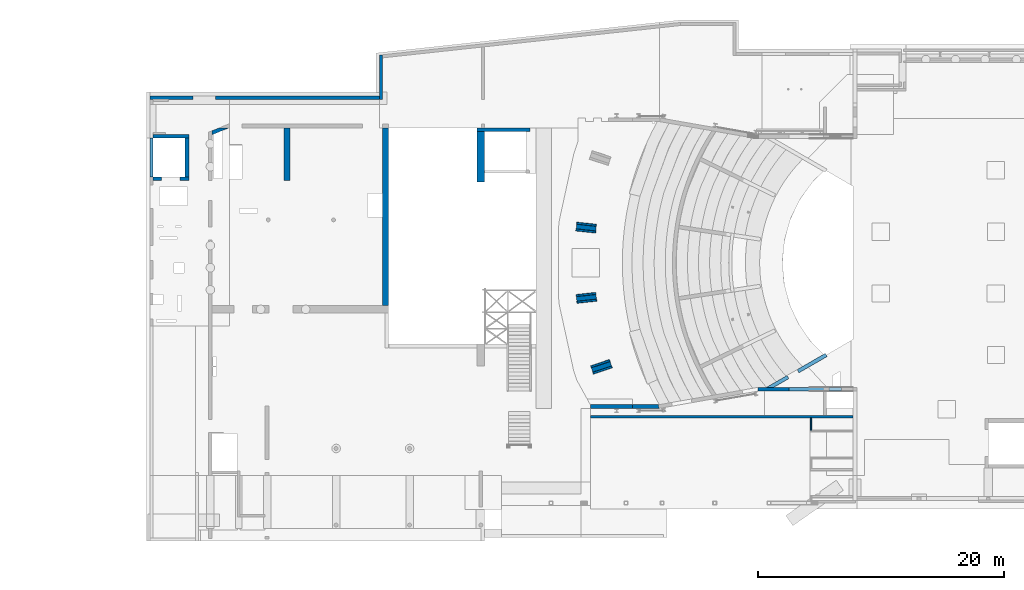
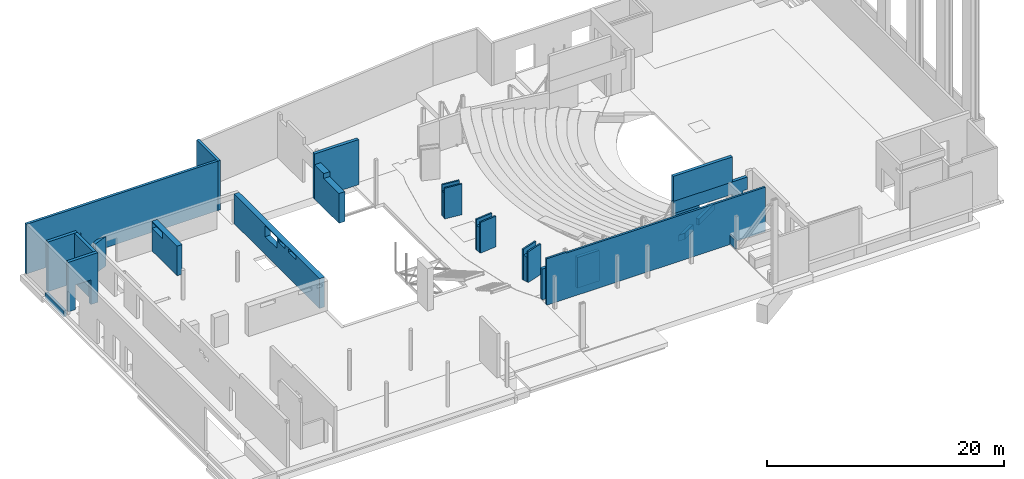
# One storey, part 25 of 34: 28 walls, 9 openings.
"""IFC2X3 building model written with IfcOpenShell, lengths in millimetres."""

from ifc_helpers import new_model, entity, si_unit, converted_unit, derived_unit, direction, frame, frame_2d, origin, origin_2d_with_axis, place, context, subcontext, project, spatial, polyline, circle_curve, parameter, trimmed, segment, composite_curve, rectangle, outline, extrude, clip, bounded_halfspace, material, layer, layer_set, layer_usage, type_object, element, save


model = new_model("IFC2X3")

# Units and contexts
model_context = context("Model", 3, precision=0.01, world=origin(), true_north=direction((6.12303176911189e-17, 1.0)))
body_context = subcontext(model_context, "Body", "Model", "MODEL_VIEW")
ifc_project = project(units=[si_unit("LENGTHUNIT", "METRE", prefix="MILLI"), si_unit("AREAUNIT", "SQUARE_METRE", prefix="MILLI"), si_unit("VOLUMEUNIT", "CUBIC_METRE"), converted_unit("PLANEANGLEUNIT", "DEGREE", entity("IfcRatioMeasure", 0.0174532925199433), si_unit("PLANEANGLEUNIT", "RADIAN"), dimensions=[0, 0, 0, 0, 0, 0, 0]), si_unit("MASSUNIT", "GRAM", prefix="KILO"), derived_unit("MASSDENSITYUNIT", [(si_unit("MASSUNIT", "GRAM", prefix="KILO"), 1), (si_unit("LENGTHUNIT", "METRE"), -3)]), derived_unit("MOMENTOFINERTIAUNIT", [(si_unit("LENGTHUNIT", "METRE"), 4)]), si_unit("TIMEUNIT", "SECOND"), si_unit("FREQUENCYUNIT", "HERTZ"), si_unit("THERMODYNAMICTEMPERATUREUNIT", "DEGREE_CELSIUS"), derived_unit("THERMALTRANSMITTANCEUNIT", [(si_unit("MASSUNIT", "GRAM", prefix="KILO"), 1), (si_unit("THERMODYNAMICTEMPERATUREUNIT", "KELVIN"), -1), (si_unit("TIMEUNIT", "SECOND"), -3)]), derived_unit("VOLUMETRICFLOWRATEUNIT", [(si_unit("LENGTHUNIT", "METRE"), 3), (si_unit("TIMEUNIT", "SECOND"), -1)]), si_unit("ELECTRICCURRENTUNIT", "AMPERE"), si_unit("ELECTRICVOLTAGEUNIT", "VOLT"), si_unit("POWERUNIT", "WATT"), si_unit("FORCEUNIT", "NEWTON", prefix="KILO"), si_unit("ILLUMINANCEUNIT", "LUX"), si_unit("LUMINOUSFLUXUNIT", "LUMEN"), si_unit("LUMINOUSINTENSITYUNIT", "CANDELA"), derived_unit("USERDEFINED", [(si_unit("MASSUNIT", "GRAM", prefix="KILO"), -1), (si_unit("LENGTHUNIT", "METRE"), -2), (si_unit("TIMEUNIT", "SECOND"), 3), (si_unit("LUMINOUSFLUXUNIT", "LUMEN"), 1)]), derived_unit("LINEARVELOCITYUNIT", [(si_unit("LENGTHUNIT", "METRE"), 1), (si_unit("TIMEUNIT", "SECOND"), -1)]), si_unit("PRESSUREUNIT", "PASCAL"), derived_unit("USERDEFINED", [(si_unit("LENGTHUNIT", "METRE"), -2), (si_unit("MASSUNIT", "GRAM", prefix="KILO"), 1), (si_unit("TIMEUNIT", "SECOND"), -2)]), derived_unit("LINEARFORCEUNIT", [(si_unit("MASSUNIT", "GRAM", prefix="KILO"), 1), (si_unit("LENGTHUNIT", "METRE"), 1), (si_unit("TIMEUNIT", "SECOND"), -2), (si_unit("LENGTHUNIT", "METRE"), -1)]), derived_unit("PLANARFORCEUNIT", [(si_unit("MASSUNIT", "GRAM", prefix="KILO"), 1), (si_unit("LENGTHUNIT", "METRE"), 1), (si_unit("TIMEUNIT", "SECOND"), -2), (si_unit("LENGTHUNIT", "METRE"), -2)])], contexts=[model_context])

# Site, building, storey
site_placement = place(None, origin())
site = spatial("IfcSite", under=ifc_project, at=site_placement, Name="Theater aan de Parade", CompositionType="ELEMENT")
building_placement = place(site_placement, origin())
building = spatial("IfcBuilding", under=site, at=building_placement, Name="Theater aan de Parade", CompositionType="ELEMENT")
storey_placement = place(building_placement, frame((0.0, 0.0, 3.49116848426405e-09)))
storey = spatial("IfcBuildingStorey", under=building, at=storey_placement, Name="00 begane grond", CompositionType="ELEMENT", Elevation=3.49116848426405e-09)

# Wall, openings
ifc_material_1 = material(Name="00_PBT_MAT_beton t.p.g.")
ifc_layer_1 = layer(ifc_material_1, 300.0)
ifc_layer_set_1 = layer_set([ifc_layer_1], Name="Basic Wall:28_PBT_WA_beton t.p.g._d=300_bestaand")
ifc_layer_usage_1 = layer_usage(ifc_layer_set_1, "AXIS2", "POSITIVE", -150.0)
wall_type_1 = type_object("IfcWallType", Name="Basic Wall:28_PBT_WA_beton t.p.g._d=300_bestaand", PredefinedType="STANDARD", material=ifc_layer_set_1)
wall_1_placement = place(storey_placement, frame((59641.4285714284, 22190.0, 960.0)))
wall_1 = element("IfcWallStandardCase", 1, at=wall_1_placement, inside=storey, type_object=wall_type_1, material=ifc_layer_usage_1, Name="Basic Wall:28_PBT_WA_beton t.p.g._d=300_bestaand", ObjectType="Basic Wall:28_PBT_WA_beton t.p.g._d=300_bestaand", context=body_context, shape_type="SweptSolid", body=[
    extrude(rectangle(XDim=7214.82752953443, YDim=300.000000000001, at=frame_2d((3607.41376476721, 7.53175299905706e-13), x_axis=(-1.0, 0.0))), origin(), (0.0, 0.0, 1.0), 3510.00000000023),
])
opening_1_placement = place(wall_1_placement, origin())
element("IfcOpeningElement", 2, at=opening_1_placement, cuts=wall_1, Name="Basic Wall:28_PBT_WA_beton t.p.g._d=300_bestaand", ObjectType="Opening", context=body_context, shape_type="SweptSolid", body=[
    extrude(rectangle(XDim=2240.00000000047, YDim=436.256100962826, at=frame_2d((4.33431068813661e-12, 2.27373675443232e-13), x_axis=(0.0, 1.0))), frame((6996.69947905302, 150.0, 1120.0), z_axis=(0.0, -1.0, 0.0), x_axis=(-1.0, 0.0, 0.0)), (0.0, 0.0, 1.0), 300.0),
])
opening_2_placement = place(wall_1_placement, origin())
element("IfcOpeningElement", 3, at=opening_2_placement, cuts=wall_1, Name="Basic Wall:28_PBT_WA_beton t.p.g._d=300_bestaand", ObjectType="Opening", context=body_context, shape_type="SweptSolid", body=[
    extrude(rectangle(XDim=2240.00000000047, YDim=5778.57142848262, at=frame_2d((2.27373675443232e-13, 0.0), x_axis=(1.0, 0.0))), frame((2889.28571424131, 150.0, 1120.0), z_axis=(0.0, -1.0, 0.0), x_axis=(0.0, 0.0, 1.0)), (0.0, 0.0, 1.0), 300.0),
])

# Walls
ifc_layer_usage_2 = layer_usage(ifc_layer_set_1, "AXIS2", "POSITIVE", -150.0)
wall_2_placement = place(storey_placement, frame((49470.0, 20780.0, -60.0)))
element("IfcWallStandardCase", 4, at=wall_2_placement, inside=storey, type_object=wall_type_1, material=ifc_layer_usage_2, Name="Basic Wall:28_PBT_WA_beton t.p.g._d=300_bestaand", ObjectType="Basic Wall:28_PBT_WA_beton t.p.g._d=300_bestaand", context=body_context, shape_type="SweptSolid", body=[
    extrude(outline(polyline([(2140.33775750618, -150.0), (2114.28571428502, 150.0), (0.0, 150.0), (0.0, -150.0), (2140.33775750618, -150.0)])), origin(), (0.0, 0.0, 1.0), 3170.0),
])
wall_3_placement = place(storey_placement, frame((65186.2749133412, 24967.4742871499, -60.0), z_axis=(0.0, 0.0, 1.0), x_axis=(-0.866064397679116, -0.499932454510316, 0.0)))
element("IfcWall", 5, at=wall_3_placement, inside=storey, type_object=wall_type_1, Name="Basic Wall:28_PBT_WA_beton t.p.g._d=300_bestaand", ObjectType="Basic Wall:28_PBT_WA_beton t.p.g._d=300_bestaand", context=body_context, shape_type="SweptSolid", body=[
    extrude(outline(polyline([(-1026.56788733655, -419.385215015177), (-426.486821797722, -419.385215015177), (801.517222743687, 289.475555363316), (651.537486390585, 549.294874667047), (-1026.56788733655, -419.385215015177)])), frame((4416.77481070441, 0.0, 0.0), z_axis=(0.0, 0.0, 1.0), x_axis=(-0.866064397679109, 0.499932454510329, 0.0)), (0.0, 0.0, 1.0), 640.0),
    extrude(rectangle(XDim=300.0, YDim=2627.89105504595, at=frame_2d((-30.0000000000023, -246.005386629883), x_axis=(1.0, 0.0))), frame((1067.94014089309, 30.0, 0.0), z_axis=(0.0, 0.0, 1.0), x_axis=(0.0, 1.0, 0.0)), (0.0, 0.0, 1.0), 640.000000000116),
])
ifc_layer_2 = layer(ifc_material_1, 400.0)
ifc_layer_set_2 = layer_set([ifc_layer_2], Name="Basic Wall:28_PBT_WA_beton t.p.g._d=400_bestaand")
ifc_layer_usage_3 = layer_usage(ifc_layer_set_2, "AXIS2", "POSITIVE", -200.0)
wall_type_2 = type_object("IfcWallType", Name="Basic Wall:28_PBT_WA_beton t.p.g._d=400_bestaand", PredefinedType="STANDARD", material=ifc_layer_set_2)
wall_4_placement = place(storey_placement, frame((46504.1770894, 35222.3547866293, -60.0), z_axis=(0.0, 0.0, 1.0), x_axis=(-0.994276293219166, 0.106839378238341, 0.0)))
element("IfcWallStandardCase", 6, at=wall_4_placement, inside=storey, type_object=wall_type_2, material=ifc_layer_usage_3, Name="Basic Wall:28_PBT_WA_beton t.p.g._d=400_bestaand", ObjectType="Basic Wall:28_PBT_WA_beton t.p.g._d=400_bestaand", context=body_context, shape_type="SweptSolid", body=[
    extrude(rectangle(XDim=1600.00000000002, YDim=399.999999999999, at=frame_2d((800.000000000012, 1.00897068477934e-12), x_axis=(-1.0, 0.0))), origin(), (0.0, 0.0, 1.0), 2570.0),
])
ifc_layer_usage_4 = layer_usage(ifc_layer_set_2, "AXIS2", "NEGATIVE", 200.0)
wall_5_placement = place(storey_placement, frame((46522.8755393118, 29692.8205102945, -60.0), z_axis=(0.0, 0.0, 1.0), x_axis=(-0.994276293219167, -0.106839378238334, 0.0)))
element("IfcWallStandardCase", 7, at=wall_5_placement, inside=storey, type_object=wall_type_2, material=ifc_layer_usage_4, Name="Basic Wall:28_PBT_WA_beton t.p.g._d=400_bestaand", ObjectType="Basic Wall:28_PBT_WA_beton t.p.g._d=400_bestaand", context=body_context, shape_type="SweptSolid", body=[
    extrude(rectangle(XDim=1600.00000000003, YDim=399.999999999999, at=frame_2d((800.000000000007, 3.26849658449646e-13), x_axis=(-1.0, 0.0))), origin(), (0.0, 0.0, 1.0), 2570.0),
])
ifc_layer_usage_5 = layer_usage(ifc_layer_set_2, "AXIS2", "NEGATIVE", 200.0)
wall_6_placement = place(storey_placement, frame((47705.8525385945, 24259.248205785, -60.0), z_axis=(0.0, 0.0, 1.0), x_axis=(-0.948323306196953, -0.317305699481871, 0.0)))
element("IfcWallStandardCase", 8, at=wall_6_placement, inside=storey, type_object=wall_type_2, material=ifc_layer_usage_5, Name="Basic Wall:28_PBT_WA_beton t.p.g._d=400_bestaand", ObjectType="Basic Wall:28_PBT_WA_beton t.p.g._d=400_bestaand", context=body_context, shape_type="SweptSolid", body=[
    extrude(rectangle(XDim=1600.00000000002, YDim=400.000000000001, at=frame_2d((800.00000000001, -1.54898316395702e-12), x_axis=(-1.0, 0.0))), origin(), (0.0, 0.0, 1.0), 2570.0),
])
ifc_material_2 = material(Name="00_PBT_MAT_beton t.p.g._C30/37")
ifc_layer_3 = layer(ifc_material_2, 300.0)
ifc_layer_set_3 = layer_set([ifc_layer_3], Name="Basic Wall:28_PBT_WA_beton t.p.g._d=300_C30/37")
ifc_layer_usage_6 = layer_usage(ifc_layer_set_3, "AXIS2", "POSITIVE", -150.0)
wall_type_3 = type_object("IfcWallType", Name="Basic Wall:28_PBT_WA_beton t.p.g._d=300_C30/37", PredefinedType="STANDARD", material=ifc_layer_set_3)
wall_7_placement = place(storey_placement, frame((13454.8570025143, 42720.0, -90.0), z_axis=(0.0, 0.0, 1.0), x_axis=(-1.0, 0.0, 0.0)))
element("IfcWallStandardCase", 9, at=wall_7_placement, inside=storey, type_object=wall_type_3, material=ifc_layer_usage_6, Name="Basic Wall:28_PBT_WA_beton t.p.g._d=300_C30/37", ObjectType="Basic Wall:28_PBT_WA_beton t.p.g._d=300_C30/37", context=body_context, shape_type="SweptSolid", body=[
    extrude(rectangle(XDim=2900.74444879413, YDim=300.000000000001, at=frame_2d((1450.37222439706, 7.38964445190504e-13), x_axis=(-1.0, 0.0))), origin(), (0.0, 0.0, 1.0), 5109.99999999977),
])

# Wall, openings
ifc_layer_usage_7 = layer_usage(ifc_layer_set_3, "AXIS2", "NEGATIVE", 150.0)
wall_8_placement = place(storey_placement, frame((13454.8570025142, 39270.0, -90.0), z_axis=(0.0, 0.0, 1.0), x_axis=(-1.0, 0.0, 0.0)))
wall_8 = element("IfcWallStandardCase", 10, at=wall_8_placement, inside=storey, type_object=wall_type_3, material=ifc_layer_usage_7, Name="Basic Wall:28_PBT_WA_beton t.p.g._d=300_C30/37", ObjectType="Basic Wall:28_PBT_WA_beton t.p.g._d=300_C30/37", context=body_context, shape_type="SweptSolid", body=[
    extrude(rectangle(XDim=2900.74444879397, YDim=300.000000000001, at=frame_2d((1450.37222439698, -6.11066752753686e-13), x_axis=(-1.0, 0.0))), origin(), (0.0, 0.0, 1.0), 5109.99999999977),
])
opening_3_placement = place(wall_8_placement, origin())
element("IfcOpeningElement", 11, at=opening_3_placement, cuts=wall_8, Name="Basic Wall:28_PBT_WA_beton t.p.g._d=300_C30/37", ObjectType="Opening", context=body_context, shape_type="SweptSolid", body=[
    extrude(rectangle(XDim=2539.99999999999, YDim=1500.0, at=frame_2d((0.0, 1.08002495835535e-12), x_axis=(1.0, 0.0))), frame((1450.54436971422, -150.0, 1270.0), z_axis=(0.0, 1.0, 0.0), x_axis=(0.0, 0.0, -1.0)), (0.0, 0.0, 1.0), 300.000000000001),
])
opening_4_placement = place(wall_8_placement, origin())
element("IfcOpeningElement", 12, at=opening_4_placement, cuts=wall_8, Name="Basic Wall:28_PBT_WA_beton t.p.g._d=300_C30/37", ObjectType="Opening", context=body_context, shape_type="SweptSolid", body=[
    extrude(rectangle(XDim=2449.99999999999, YDim=1500.0, at=frame_2d((-5.6843418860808e-13, 1.08002495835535e-12), x_axis=(1.0, 0.0))), frame((1450.54436971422, -150.0, 6335.0), z_axis=(0.0, 1.0, 0.0), x_axis=(0.0, 0.0, -1.0)), (0.0, 0.0, 1.0), 300.000000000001),
])

# Walls
ifc_layer_usage_8 = layer_usage(ifc_layer_set_3, "AXIS2", "NEGATIVE", 150.0)
wall_9_placement = place(storey_placement, frame((13304.8570025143, 42570.0, -90.0), z_axis=(0.0, 0.0, 1.0), x_axis=(0.0, -1.0, 0.0)))
element("IfcWallStandardCase", 13, at=wall_9_placement, inside=storey, type_object=wall_type_3, material=ifc_layer_usage_8, Name="Basic Wall:28_PBT_WA_beton t.p.g._d=300_C30/37", ObjectType="Basic Wall:28_PBT_WA_beton t.p.g._d=300_C30/37", context=body_context, shape_type="SweptSolid", body=[
    extrude(rectangle(XDim=3150.00000002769, YDim=300.000000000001, at=frame_2d((1575.00000001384, 1.84741111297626e-13), x_axis=(-1.0, 0.0))), origin(), (0.0, 0.0, 1.0), 5109.99999999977),
])
ifc_layer_usage_9 = layer_usage(ifc_layer_set_3, "AXIS2", "NEGATIVE", 150.0)
wall_10_placement = place(storey_placement, frame((59641.4285714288, 22190.0, 960.0)))
element("IfcWallStandardCase", 14, at=wall_10_placement, inside=storey, type_object=wall_type_3, material=ifc_layer_usage_9, Name="Basic Wall:28_PBT_WA_beton t.p.g._d=300_C30/37", ObjectType="Basic Wall:28_PBT_WA_beton t.p.g._d=300_C30/37", context=body_context, shape_type="SweptSolid", body=[
    extrude(rectangle(XDim=2539.95502820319, YDim=300.000000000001, at=frame_2d((1269.9775141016, -8.5265128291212e-14), x_axis=(-1.0, 0.0))), origin(), (0.0, 0.0, 1.0), 2240.0),
])
ifc_layer_usage_10 = layer_usage(ifc_layer_set_3, "AXIS2", "NEGATIVE", 150.0)
wall_11_placement = place(storey_placement, frame((59641.4285714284, 22190.0, 4470.0)))
element("IfcWallStandardCase", 15, at=wall_11_placement, inside=storey, type_object=wall_type_3, material=ifc_layer_usage_10, Name="Basic Wall:28_PBT_WA_beton t.p.g._d=300_C30/37", ObjectType="Basic Wall:28_PBT_WA_beton t.p.g._d=300_C30/37", context=body_context, shape_type="SweptSolid", body=[
    extrude(rectangle(XDim=5778.57142857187, YDim=300.000000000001, at=frame_2d((2889.28571428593, 1.29318777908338e-12), x_axis=(-1.0, 0.0))), origin(), (0.0, 0.0, 1.0), 2580.0),
])
ifc_layer_usage_11 = layer_usage(ifc_layer_set_3, "AXIS2", "POSITIVE", -150.0)
wall_12_placement = place(storey_placement, frame((46044.2615211, 20780.0, -60.0)))
element("IfcWallStandardCase", 16, at=wall_12_placement, inside=storey, type_object=wall_type_3, material=ifc_layer_usage_11, Name="Basic Wall:28_PBT_WA_beton t.p.g._d=300_C30/37", ObjectType="Basic Wall:28_PBT_WA_beton t.p.g._d=300_C30/37", context=body_context, shape_type="Clipping", body=[
    clip(clip(clip(extrude(rectangle(XDim=3425.73847890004, YDim=300.000000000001, at=frame_2d((1712.86923945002, 5.6843418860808e-13), x_axis=(-1.0, 0.0))), origin(), (0.0, 0.0, 1.0), 4700.00000000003), bounded_halfspace(frame((1437.06986722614, -150.0, 3170.0), z_axis=(0.0, 0.0, -1.0), x_axis=(-0.985030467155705, -0.172380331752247, 0.0)), True, frame((1437.06986722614, -150.0, 3170.0)), composite_curve([segment(polyline([(0.0, 0.0), (606146.192838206, 0.0)]), True, "CONTINUOUS"), segment(polyline([(606146.192838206, 6.60104603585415e-08), (606146.192838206, 91440.0)]), True, "CONTINUOUS"), segment(polyline([(606146.192838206, 91440.0), (-42943.3745385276, 91440.0)]), True, "CONTINUOUS"), segment(trimmed(circle_curve(frame_2d((7552538.19283821, 3602736.0), x_axis=(1.0, 0.0)), 27453.5028396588), [parameter(204.810509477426)], [parameter(205.502225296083)], True, "PARAMETER"), True, "CONTINUOUS")], self_intersect=False))), bounded_halfspace(frame((0.0, -150.0, 4700.0), z_axis=(0.0, 0.0, -1.0), x_axis=(0.0, 1.0, 0.0)), True, frame((0.0, -150.0, 4700.0)), composite_curve([segment(polyline([(0.0, 0.0), (438018.895530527, 0.0)]), True, "CONTINUOUS"), segment(trimmed(circle_curve(frame_2d((7990557.08836873, 3602736.0), x_axis=(1.0, 0.0)), 27453.5028396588), [parameter(204.810509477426)], [parameter(205.502225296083)], True, "PARAMETER"), False, "CONTINUOUS"), segment(polyline([(395075.520991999, 91440.0), (0.0, 91440.0)]), True, "CONTINUOUS"), segment(polyline([(0.0, 91440.0), (0.0, 0.0)]), True, "CONTINUOUS")], self_intersect=False))), bounded_halfspace(frame((1437.06986722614, -150.0, 3170.0), z_axis=(0.0, 0.0, -1.0), x_axis=(-0.985030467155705, -0.172380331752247, 0.0)), True, frame((1437.06986722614, -150.0, 3170.0)), composite_curve([segment(polyline([(0.0, 0.0), (606146.192838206, 0.0)]), True, "CONTINUOUS"), segment(polyline([(606146.192838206, 6.60104603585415e-08), (606146.192838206, 91440.0)]), True, "CONTINUOUS"), segment(polyline([(606146.192838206, 91440.0), (-42943.3745385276, 91440.0)]), True, "CONTINUOUS"), segment(trimmed(circle_curve(frame_2d((7552538.19283821, 3602736.0), x_axis=(1.0, 0.0)), 27453.5028396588), [parameter(204.810509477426)], [parameter(205.502225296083)], True, "PARAMETER"), True, "CONTINUOUS")], self_intersect=False))),
])
ifc_layer_usage_12 = layer_usage(ifc_layer_set_3, "AXIS2", "POSITIVE", -150.0)
wall_13_placement = place(storey_placement, frame((36853.8581300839, 43250.0, -90.0)))
element("IfcWallStandardCase", 17, at=wall_13_placement, inside=storey, type_object=wall_type_3, material=ifc_layer_usage_12, Name="Basic Wall:28_PBT_WA_beton t.p.g._d=300_C30/37", ObjectType="Basic Wall:28_PBT_WA_beton t.p.g._d=300_C30/37", context=body_context, shape_type="Clipping", body=[
    clip(extrude(rectangle(XDim=4313.9999974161, YDim=300.000000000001, at=frame_2d((2156.99999870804, 7.95807864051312e-13), x_axis=(-1.0, 0.0))), origin(), (0.0, 0.0, 1.0), 4649.99999999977), bounded_halfspace(frame((350.0, -150.0, 4650.0), z_axis=(0.0, 0.0, -1.0), x_axis=(0.0, -1.0, 0.0)), True, frame((350.0, -150.0, 4650.0)), polyline([(0.0, 0.0), (3610.0, 0.0), (3964.0, 0.0), (3964.0, 300.0), (250.0, 300.0), (0.0, 300.0), (0.0, 0.0)]))),
])
ifc_layer_usage_13 = layer_usage(ifc_layer_set_3, "AXIS2", "POSITIVE", -150.0)
wall_14_placement = place(storey_placement, frame((15297.6238715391, 42990.3425476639, -90.0), z_axis=(0.0, 0.0, 1.0), x_axis=(0.92707029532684, 0.374887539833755, 0.0)))
element("IfcWallStandardCase", 18, at=wall_14_placement, inside=storey, type_object=wall_type_3, material=ifc_layer_usage_13, Name="Basic Wall:28_PBT_WA_beton t.p.g._d=300_C30/37", ObjectType="Basic Wall:28_PBT_WA_beton t.p.g._d=300_C30/37", context=body_context, shape_type="Clipping", body=[
    clip(extrude(outline(polyline([(1463.68694163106, -150.0), (721.808220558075, 150.0), (121.313629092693, 150.0), (0.0, -150.0), (91.8241989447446, -150.0), (900.824340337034, -150.0), (1463.68694163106, -150.0)])), origin(), (0.0, 0.0, 1.0), 3059.99999999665), bounded_halfspace(frame((0.0, -150.0, 3060.0), z_axis=(0.0, 0.0, -1.0), x_axis=(-0.92707029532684, 0.374887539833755, 0.0)), True, frame((0.0, -150.0, 3060.0), z_axis=(0.0, 0.0, -1.0), x_axis=(-0.92707029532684, 0.374887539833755, 0.0)), polyline([(0.0, 0.0), (0.0, 323.600056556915), (-556.70069825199, 548.717996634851), (-1356.94068524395, 548.717996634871), (0.0, 0.0)]))),
])
ifc_layer_4 = layer(ifc_material_2, 250.0)
ifc_layer_set_4 = layer_set([ifc_layer_4], Name="Basic Wall:28_PBT_WA_beton t.p.g._d=250_C30/37")
ifc_layer_usage_14 = layer_usage(ifc_layer_set_4, "AXIS2", "NEGATIVE", 125.0)
wall_type_4 = type_object("IfcWallType", Name="Basic Wall:28_PBT_WA_beton t.p.g._d=250_C30/37", PredefinedType="STANDARD", material=ifc_layer_set_4)
wall_15_placement = place(storey_placement, frame((29063.8975663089, 49337.9642801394, -90.0), z_axis=(0.0, 0.0, 1.0), x_axis=(0.0, -1.0, 0.0)))
element("IfcWallStandardCase", 19, at=wall_15_placement, inside=storey, type_object=wall_type_4, material=ifc_layer_usage_14, Name="Basic Wall:28_PBT_WA_beton t.p.g._d=250_C30/37", ObjectType="Basic Wall:28_PBT_WA_beton t.p.g._d=250_C30/37", context=body_context, shape_type="SweptSolid", body=[
    extrude(outline(polyline([(3614.96428014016, -125.0), (3614.96428014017, 125.0), (251.467436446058, 125.0), (0.0, 125.0), (27.1269532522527, -125.0), (3364.96428014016, -125.0), (3614.96428014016, -125.0)])), origin(), (0.0, 0.0, 1.0), 5109.99999999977),
])

# Wall, opening
ifc_layer_usage_15 = layer_usage(ifc_layer_set_4, "AXIS2", "NEGATIVE", 125.0)
wall_16_placement = place(storey_placement, frame((28938.897566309, 45848.0, -90.0), z_axis=(0.0, 0.0, 1.0), x_axis=(-1.0, 0.0, 0.0)))
wall_16 = element("IfcWallStandardCase", 20, at=wall_16_placement, inside=storey, type_object=wall_type_4, material=ifc_layer_usage_15, Name="Basic Wall:28_PBT_WA_beton t.p.g._d=250_C30/37", ObjectType="Basic Wall:28_PBT_WA_beton t.p.g._d=250_C30/37", context=body_context, shape_type="SweptSolid", body=[
    extrude(rectangle(XDim=18634.7850125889, YDim=249.999999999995, at=frame_2d((9317.39250629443, -4.21351842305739e-12), x_axis=(-1.0, 0.0))), origin(), (0.0, 0.0, 1.0), 5109.99999999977),
])
opening_5_placement = place(wall_16_placement, origin())
element("IfcOpeningElement", 21, at=opening_5_placement, cuts=wall_16, Name="Basic Wall:28_PBT_WA_beton t.p.g._d=250_C30/37", ObjectType="Opening", context=body_context, shape_type="SweptSolid", body=[
    extrude(rectangle(XDim=2369.99999999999, YDim=1810.0, at=origin_2d_with_axis()), frame((14237.805282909, -125.0, 1185.0), z_axis=(0.0, 1.0, 0.0), x_axis=(0.0, 0.0, -1.0)), (0.0, 0.0, 1.0), 249.999999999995),
])

# Wall, openings
ifc_layer_5 = layer(ifc_material_2, 500.0)
ifc_layer_set_5 = layer_set([ifc_layer_5], Name="Basic Wall:28_PBT_WA_beton t.p.g._d=500_C30/37")
ifc_layer_usage_16 = layer_usage(ifc_layer_set_5, "AXIS2", "NEGATIVE", 250.0)
wall_type_5 = type_object("IfcWallType", Name="Basic Wall:28_PBT_WA_beton t.p.g._d=500_C30/37", PredefinedType="STANDARD", material=ifc_layer_set_5)
wall_17_placement = place(storey_placement, frame((29425.0, 43400.0, -90.0), z_axis=(0.0, 0.0, 1.0), x_axis=(0.0, -1.0, 0.0)))
wall_17 = element("IfcWallStandardCase", 22, at=wall_17_placement, inside=storey, type_object=wall_type_5, material=ifc_layer_usage_16, Name="Basic Wall:28_PBT_WA_beton t.p.g._d=500_C30/37", ObjectType="Basic Wall:28_PBT_WA_beton t.p.g._d=500_C30/37", context=body_context, shape_type="SweptSolid", body=[
    extrude(rectangle(XDim=14426.6855001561, YDim=499.999999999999, at=frame_2d((7213.34275007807, -1.10844666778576e-12), x_axis=(-1.0, 0.0))), origin(), (0.0, 0.0, 1.0), 3059.99999999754),
])
opening_6_placement = place(wall_17_placement, origin())
element("IfcOpeningElement", 23, at=opening_6_placement, cuts=wall_17, Name="Basic Wall:28_PBT_WA_beton t.p.g._d=500_C30/37", ObjectType="Opening", context=body_context, shape_type="SweptSolid", body=[
    extrude(rectangle(XDim=1099.99999999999, YDim=2000.0, at=frame_2d((1.13686837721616e-13, -4.32009983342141e-12), x_axis=(1.0, 0.0))), frame((6265.0, -250.0, 2385.0), z_axis=(0.0, 1.0, 0.0), x_axis=(0.0, 0.0, -1.0)), (0.0, 0.0, 1.0), 499.999999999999),
])
opening_7_placement = place(wall_17_placement, origin())
element("IfcOpeningElement", 24, at=opening_7_placement, cuts=wall_17, Name="Basic Wall:28_PBT_WA_beton t.p.g._d=500_C30/37", ObjectType="Opening", context=body_context, shape_type="SweptSolid", body=[
    extrude(rectangle(XDim=349.999999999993, YDim=1100.00000000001, at=frame_2d((0.0, 2.1600499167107e-12), x_axis=(1.0, 0.0))), frame((8061.95610491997, -250.0, 2785.0), z_axis=(0.0, 1.0, 0.0), x_axis=(0.0, 0.0, -1.0)), (0.0, 0.0, 1.0), 499.999999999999),
])
opening_8_placement = place(wall_17_placement, origin())
element("IfcOpeningElement", 25, at=opening_8_placement, cuts=wall_17, Name="Basic Wall:28_PBT_WA_beton t.p.g._d=500_C30/37", ObjectType="Opening", context=body_context, shape_type="SweptSolid", body=[
    extrude(rectangle(XDim=349.999999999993, YDim=1300.0, at=frame_2d((0.0, 2.1600499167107e-12), x_axis=(1.0, 0.0))), frame((9809.87651334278, -250.0, 2785.0), z_axis=(0.0, 1.0, 0.0), x_axis=(0.0, 0.0, -1.0)), (0.0, 0.0, 1.0), 499.999999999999),
])

# Wall, opening
ifc_layer_usage_17 = layer_usage(ifc_layer_set_5, "AXIS2", "NEGATIVE", 250.0)
wall_18_placement = place(storey_placement, frame((21415.0, 43400.0, -90.0), z_axis=(0.0, 0.0, 1.0), x_axis=(0.0, -1.0, 0.0)))
wall_18 = element("IfcWallStandardCase", 26, at=wall_18_placement, inside=storey, type_object=wall_type_5, material=ifc_layer_usage_17, Name="Basic Wall:28_PBT_WA_beton t.p.g._d=500_C30/37", ObjectType="Basic Wall:28_PBT_WA_beton t.p.g._d=500_C30/37", context=body_context, shape_type="Clipping", body=[
    clip(extrude(rectangle(XDim=4265.00000000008, YDim=499.999999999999, at=frame_2d((2132.50000000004, -1.19371179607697e-12), x_axis=(-1.0, 0.0))), origin(), (0.0, 0.0, 1.0), 3059.99999999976), bounded_halfspace(frame((0.0, -250.0, 3060.0), z_axis=(0.0, 0.0, -1.0), x_axis=(0.0, -1.0, 0.0)), True, frame((0.0, -250.0, 3060.0)), polyline([(0.0, 0.0), (4265.0, 0.0), (4265.0, 500.0), (0.0, 500.0), (0.0, 0.0)]))),
])
opening_9_placement = place(wall_18_placement, origin())
element("IfcOpeningElement", 27, at=opening_9_placement, cuts=wall_18, Name="Basic Wall:28_PBT_WA_beton t.p.g._d=500_C30/37", ObjectType="Opening", context=body_context, shape_type="SweptSolid", body=[
    extrude(rectangle(XDim=599.999999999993, YDim=1800.00000000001, at=frame_2d((2.55795384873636e-13, 0.0), x_axis=(1.0, 0.0))), frame((950.0, -250.0, 2660.0), z_axis=(0.0, 1.0, 0.0), x_axis=(0.0, 0.0, -1.0)), (0.0, 0.0, 1.0), 499.999999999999),
])

# Walls
ifc_layer_6 = layer(ifc_material_2, 600.0)
ifc_layer_set_6 = layer_set([ifc_layer_6], Name="Basic Wall:28_PBT_WA_beton t.p.g._d=600_C30/37")
ifc_layer_usage_18 = layer_usage(ifc_layer_set_6, "AXIS2", "NEGATIVE", 300.0)
wall_type_6 = type_object("IfcWallType", Name="Basic Wall:28_PBT_WA_beton t.p.g._d=600_C30/37", PredefinedType="STANDARD", material=ifc_layer_set_6)
wall_19_placement = place(storey_placement, frame((37153.8581300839, 43100.0, -90.0), z_axis=(0.0, 0.0, 1.0), x_axis=(0.0, -1.0, 0.0)))
element("IfcWallStandardCase", 28, at=wall_19_placement, inside=storey, type_object=wall_type_6, material=ifc_layer_usage_18, Name="Basic Wall:28_PBT_WA_beton t.p.g._d=600_C30/37", ObjectType="Basic Wall:28_PBT_WA_beton t.p.g._d=600_C30/37", context=body_context, shape_type="Clipping", body=[
    clip(clip(extrude(rectangle(XDim=4100.00000560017, YDim=600.000000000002, at=frame_2d((2050.00000280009, 1.27897692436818e-12), x_axis=(-1.0, 0.0))), origin(), (0.0, 0.0, 1.0), 3559.99999999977), bounded_halfspace(frame((1526.69167290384, 300.000044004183, 3060.0), z_axis=(0.0, 0.0, -1.0), x_axis=(0.0, -1.0, 0.0)), True, frame((1526.69167290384, 300.000044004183, 3060.0), z_axis=(0.0, 0.0, -1.0), x_axis=(0.0, -1.0, 0.0)), polyline([(0.0, 0.0), (4.40042376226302e-05, -2573.30833269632), (600.000044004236, -2573.30833269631), (600.000044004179, 0.0), (0.0, 0.0)]))), bounded_halfspace(frame((1526.69167290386, -300.0, 3060.0), z_axis=(-1.0, 0.0, 0.0), x_axis=(0.0, 0.0, 1.0)), True, frame((1526.69167290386, -300.0, 3060.0), z_axis=(-1.0, 0.0, 0.0), x_axis=(0.0, 0.0, 1.0)), polyline([(0.0, 0.0), (500.0, 0.0), (500.0, 600.0), (0.0, 600.000044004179), (0.0, 0.0)]))),
])
ifc_layer_7 = layer(ifc_material_2, 250.0)
ifc_layer_set_7 = layer_set([ifc_layer_7], Name="Basic Wall:16_PBT_WA_beton t.p.g._d=250_C30/37")
ifc_layer_usage_19 = layer_usage(ifc_layer_set_7, "AXIS2", "POSITIVE", -125.0)
wall_type_7 = type_object("IfcWallType", Name="Basic Wall:16_PBT_WA_beton t.p.g._d=250_C30/37", PredefinedType="STANDARD", material=ifc_layer_set_7)
wall_20_placement = place(storey_placement, frame((10429.1125537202, 42570.0, -690.0), z_axis=(0.0, 0.0, 1.0), x_axis=(0.0, -1.0, 0.0)))
element("IfcWallStandardCase", 29, at=wall_20_placement, inside=storey, type_object=wall_type_7, material=ifc_layer_usage_19, Name="Basic Wall:16_PBT_WA_beton t.p.g._d=250_C30/37", ObjectType="Basic Wall:16_PBT_WA_beton t.p.g._d=250_C30/37", context=body_context, shape_type="SweptSolid", body=[
    extrude(rectangle(XDim=3150.00000002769, YDim=249.999999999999, at=frame_2d((1575.00000001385, -1.77635683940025e-13), x_axis=(-1.0, 0.0))), origin(), (0.0, 0.0, 1.0), 600.000000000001),
])
ifc_layer_8 = layer(ifc_material_2, 200.0)
ifc_layer_set_8 = layer_set([ifc_layer_8], Name="Basic Wall:28_PBT_WA_beton t.p.g._d=200_C30/37")
ifc_layer_usage_20 = layer_usage(ifc_layer_set_8, "AXIS2", "POSITIVE", -100.0)
wall_type_8 = type_object("IfcWallType", Name="Basic Wall:28_PBT_WA_beton t.p.g._d=200_C30/37", PredefinedType="STANDARD", material=ifc_layer_set_8)
wall_21_placement = place(storey_placement, frame((67356.256100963, 19966.34014876, -150.0), z_axis=(0.0, 0.0, 1.0), x_axis=(-1.0, 0.0, 0.0)))
element("IfcWallStandardCase", 30, at=wall_21_placement, inside=storey, type_object=wall_type_8, material=ifc_layer_usage_20, Name="Basic Wall:28_PBT_WA_beton t.p.g._d=200_C30/37", ObjectType="Basic Wall:28_PBT_WA_beton t.p.g._d=200_C30/37", context=body_context, shape_type="Clipping", body=[
    clip(clip(clip(clip(extrude(rectangle(XDim=21311.9945798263, YDim=199.999999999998, at=frame_2d((10655.9972899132, 5.75539615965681e-13), x_axis=(-1.0, 0.0))), origin(), (0.0, 0.0, 1.0), 4789.99999999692), bounded_halfspace(frame((0.0, -100.0, 4710.0), z_axis=(0.0, 0.0, -1.0), x_axis=(1.0, 0.0, 0.0)), True, frame((0.0, -100.0, 4710.0)), polyline([(0.0, 0.0), (2144.20402546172, 0.0), (2394.20402546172, 0.0), (3181.70402545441, 0.0), (6635.70402545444, 0.0), (6975.70402545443, 0.0), (11046.7040254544, 0.0), (11386.7040254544, 0.0), (15310.9509412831, 0.0), (19428.0945801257, 0.0), (19428.0945801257, 200.0), (19264.8445801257, 200.0), (15650.9509412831, 200.0), (15310.9509412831, 200.0), (11386.7040254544, 200.0), (11046.7040254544, 200.0), (6975.70402545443, 200.0), (6635.70402545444, 200.0), (3181.70402545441, 200.0), (2841.70402545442, 200.0), (40.0, 200.0), (0.0, 200.0), (0.0, 0.0)]))), bounded_halfspace(frame((19428.0945801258, -100.0, 4790.0), z_axis=(0.0, 0.0, -1.0), x_axis=(0.0, -1.0, 0.0)), True, frame((19428.0945801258, -100.0, 4790.0)), polyline([(0.0, 0.0), (1883.89999970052, 0.0), (1883.89999970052, 200.0), (0.0, 200.0), (0.0, 0.0)]))), bounded_halfspace(frame((0.0, -100.0, 130.0), z_axis=(0.0, 0.0, 1.0), x_axis=(-1.0, 0.0, 0.0)), True, frame((0.0, -100.0, 130.0)), polyline([(0.0, 0.0), (3475.99654986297, 0.0), (3475.99654986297, 200.0), (3325.99654986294, 200.0), (0.0, 200.0), (0.0, 0.0)]))), bounded_halfspace(frame((0.0, -100.0, 4710.0), z_axis=(0.0, 0.0, -1.0), x_axis=(1.0, 0.0, 0.0)), True, frame((0.0, -100.0, 4710.0)), polyline([(0.0, 0.0), (2144.20402546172, 0.0), (2394.20402546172, 0.0), (3181.70402545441, 0.0), (6635.70402545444, 0.0), (6975.70402545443, 0.0), (11046.7040254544, 0.0), (11386.7040254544, 0.0), (15310.9509412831, 0.0), (19428.0945801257, 0.0), (19428.0945801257, 200.0), (19264.8445801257, 200.0), (15650.9509412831, 200.0), (15310.9509412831, 200.0), (11386.7040254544, 200.0), (11046.7040254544, 200.0), (6975.70402545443, 200.0), (6635.70402545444, 200.0), (3181.70402545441, 200.0), (2841.70402545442, 200.0), (40.0, 200.0), (0.0, 200.0), (0.0, 0.0)]))),
])
ifc_layer_9 = layer(ifc_material_2, 150.0)
ifc_layer_set_9 = layer_set([ifc_layer_9], Name="Basic Wall:28_PBT_WA_beton t.p.g._d=150_C30/37")
ifc_layer_usage_21 = layer_usage(ifc_layer_set_9, "AXIS2", "POSITIVE", -75.0)
wall_type_9 = type_object("IfcWallType", Name="Basic Wall:28_PBT_WA_beton t.p.g._d=150_C30/37", PredefinedType="STANDARD", material=ifc_layer_set_9)
wall_22_placement = place(storey_placement, frame((46533.5579184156, 35495.7807672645, -60.0), z_axis=(0.0, 0.0, 1.0), x_axis=(-0.994276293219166, 0.106839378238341, 0.0)))
element("IfcWallStandardCase", 31, at=wall_22_placement, inside=storey, type_object=wall_type_9, material=ifc_layer_usage_21, Name="Basic Wall:28_PBT_WA_beton t.p.g._d=150_C30/37", ObjectType="Basic Wall:28_PBT_WA_beton t.p.g._d=150_C30/37", context=body_context, shape_type="SweptSolid", body=[
    extrude(rectangle(XDim=1600.00000000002, YDim=149.999999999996, at=frame_2d((800.000000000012, 1.01607611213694e-12), x_axis=(-1.0, 0.0))), origin(), (0.0, 0.0, 1.0), 3169.99999999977),
])
ifc_layer_usage_22 = layer_usage(ifc_layer_set_9, "AXIS2", "NEGATIVE", 75.0)
wall_23_placement = place(storey_placement, frame((46474.7962603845, 34948.928805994, -60.0), z_axis=(0.0, 0.0, 1.0), x_axis=(-0.994276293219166, 0.106839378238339, 0.0)))
element("IfcWallStandardCase", 32, at=wall_23_placement, inside=storey, type_object=wall_type_9, material=ifc_layer_usage_22, Name="Basic Wall:28_PBT_WA_beton t.p.g._d=150_C30/37", ObjectType="Basic Wall:28_PBT_WA_beton t.p.g._d=150_C30/37", context=body_context, shape_type="SweptSolid", body=[
    extrude(rectangle(XDim=1600.00000000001, YDim=149.999999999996, at=frame_2d((800.000000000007, 1.62003743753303e-12), x_axis=(-1.0, 0.0))), origin(), (0.0, 0.0, 1.0), 3169.99999999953),
])
ifc_layer_usage_23 = layer_usage(ifc_layer_set_9, "AXIS2", "NEGATIVE", 75.0)
wall_24_placement = place(storey_placement, frame((46552.2563683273, 29419.3945296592, -60.0), z_axis=(0.0, 0.0, 1.0), x_axis=(-0.994276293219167, -0.106839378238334, 0.0)))
element("IfcWallStandardCase", 33, at=wall_24_placement, inside=storey, type_object=wall_type_9, material=ifc_layer_usage_23, Name="Basic Wall:28_PBT_WA_beton t.p.g._d=150_C30/37", ObjectType="Basic Wall:28_PBT_WA_beton t.p.g._d=150_C30/37", context=body_context, shape_type="SweptSolid", body=[
    extrude(rectangle(XDim=1600.00000000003, YDim=149.999999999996, at=frame_2d((800.000000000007, 3.12638803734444e-13), x_axis=(-1.0, 0.0))), origin(), (0.0, 0.0, 1.0), 3169.99999999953),
])
ifc_layer_usage_24 = layer_usage(ifc_layer_set_9, "AXIS2", "POSITIVE", -75.0)
wall_25_placement = place(storey_placement, frame((46493.4947102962, 29966.2464909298, -60.0), z_axis=(0.0, 0.0, 1.0), x_axis=(-0.994276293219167, -0.106839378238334, 0.0)))
element("IfcWallStandardCase", 34, at=wall_25_placement, inside=storey, type_object=wall_type_9, material=ifc_layer_usage_24, Name="Basic Wall:28_PBT_WA_beton t.p.g._d=150_C30/37", ObjectType="Basic Wall:28_PBT_WA_beton t.p.g._d=150_C30/37", context=body_context, shape_type="SweptSolid", body=[
    extrude(rectangle(XDim=1600.00000000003, YDim=149.999999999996, at=frame_2d((800.000000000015, -2.50111042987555e-12), x_axis=(-1.0, 0.0))), origin(), (0.0, 0.0, 1.0), 3169.99999999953),
])
ifc_layer_usage_25 = layer_usage(ifc_layer_set_9, "AXIS2", "NEGATIVE", 75.0)
wall_26_placement = place(storey_placement, frame((47793.111605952, 23998.4592965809, -60.0), z_axis=(0.0, 0.0, 1.0), x_axis=(-0.948323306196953, -0.317305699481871, 0.0)))
element("IfcWallStandardCase", 35, at=wall_26_placement, inside=storey, type_object=wall_type_9, material=ifc_layer_usage_25, Name="Basic Wall:28_PBT_WA_beton t.p.g._d=150_C30/37", ObjectType="Basic Wall:28_PBT_WA_beton t.p.g._d=150_C30/37", context=body_context, shape_type="SweptSolid", body=[
    extrude(rectangle(XDim=1600.00000000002, YDim=149.999999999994, at=frame_2d((800.000000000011, 5.04485342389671e-13), x_axis=(-1.0, 0.0))), origin(), (0.0, 0.0, 1.0), 3169.99999999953),
])
ifc_layer_usage_26 = layer_usage(ifc_layer_set_9, "AXIS2", "POSITIVE", -75.0)
wall_27_placement = place(storey_placement, frame((47618.593471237, 24520.0371149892, -60.0), z_axis=(0.0, 0.0, 1.0), x_axis=(-0.948323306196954, -0.31730569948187, 0.0)))
element("IfcWallStandardCase", 36, at=wall_27_placement, inside=storey, type_object=wall_type_9, material=ifc_layer_usage_26, Name="Basic Wall:28_PBT_WA_beton t.p.g._d=150_C30/37", ObjectType="Basic Wall:28_PBT_WA_beton t.p.g._d=150_C30/37", context=body_context, shape_type="SweptSolid", body=[
    extrude(rectangle(XDim=1600.00000000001, YDim=149.999999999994, at=frame_2d((800.000000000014, -2.59348098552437e-12), x_axis=(-1.0, 0.0))), origin(), (0.0, 0.0, 1.0), 3169.99999999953),
])
ifc_layer_usage_27 = layer_usage(ifc_layer_set_9, "AXIS2", "NEGATIVE", 75.0)
wall_28_placement = place(storey_placement, frame((63955.2595510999, 18871.7694591, -20.0), z_axis=(0.0, 0.0, 1.0), x_axis=(0.0, 1.0, 0.0)))
element("IfcWallStandardCase", 37, at=wall_28_placement, inside=storey, type_object=wall_type_9, material=ifc_layer_usage_27, Name="Basic Wall:28_PBT_WA_beton t.p.g._d=150_C30/37", ObjectType="Basic Wall:28_PBT_WA_beton t.p.g._d=150_C30/37", context=body_context, shape_type="SweptSolid", body=[
    extrude(rectangle(XDim=994.570689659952, YDim=150.000000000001, at=frame_2d((497.285344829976, -8.10018718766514e-13), x_axis=(-1.0, 0.0))), origin(), (0.0, 0.0, 1.0), 860.000000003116),
])

save(model, "model.ifc")
